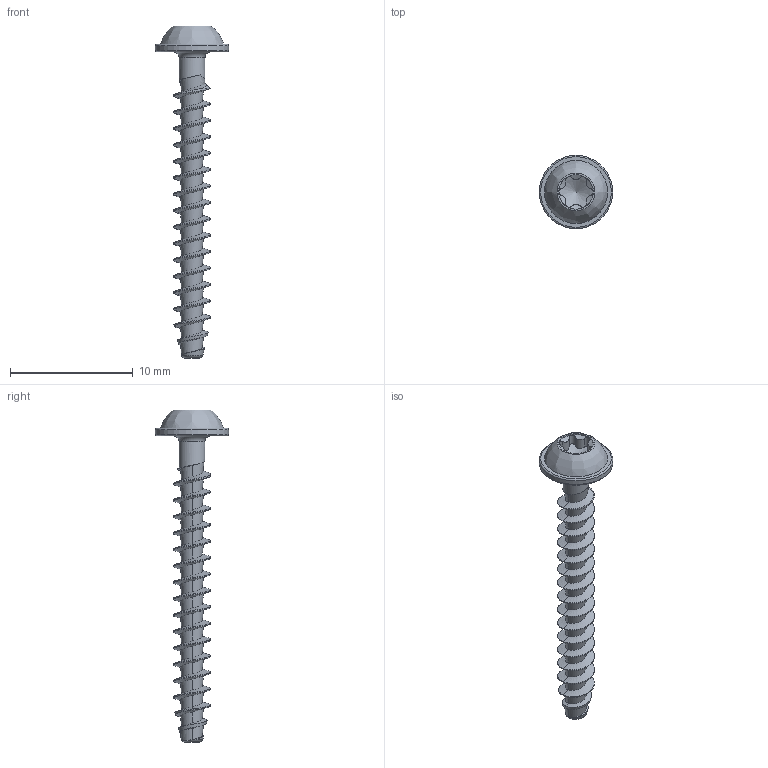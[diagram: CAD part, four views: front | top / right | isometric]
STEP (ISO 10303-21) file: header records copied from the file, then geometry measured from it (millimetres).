
FILE_DESCRIPTION(/* description */ (''),/* implementation_level */ '2;1');
FILE_NAME(/* name */ 'KN1038-STS-30x25-T10.step',/* time_stamp */ '2017-10-12T15:26:13+02:00',/* author */ (''),/* organization */ (''),/* preprocessor_version */ 'ST-DEVELOPER v16',/* originating_system */ 'SIEMENS PLM Software NX 10.0',/* authorisation */ '');
FILE_SCHEMA (('AUTOMOTIVE_DESIGN { 1 0 10303 214 3 1 1 1 }'));
Length unit declared in the file: millimetre
Products named in the file (1): KN1038-STS-30x25-T10
Bounding box: 6 x 6 x 27.1 mm (x, y, z)
Volume: 115.3 mm3; surface area: 352.6 mm2
Topology: 1 solids, 1 shells, 83 faces, 201 edges, 122 vertices
Faces by surface type: bspline 55, cylinder 16, cone 4, torus 4, plane 4
Full cylindrical faces by diameter (mm): 2.12 x1, 2.82 x1, 6 x1
Entity records: 6014 total; most frequent: CARTESIAN_POINT 4519, ORIENTED_EDGE 368, EDGE_CURVE 184, DIRECTION 151, VERTEX_POINT 116, B_SPLINE_CURVE_WITH_KNOTS 106, EDGE_LOOP 95, ADVANCED_FACE 83
